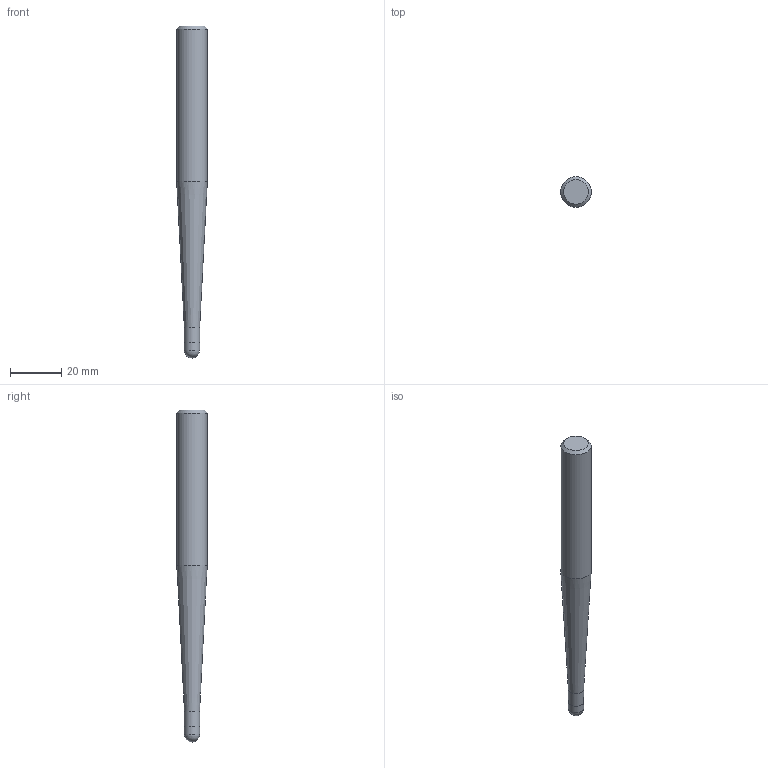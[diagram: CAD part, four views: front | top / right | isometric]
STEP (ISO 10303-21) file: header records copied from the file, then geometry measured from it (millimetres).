
FILE_DESCRIPTION((''),'2;1');
FILE_NAME('C:\Users\nsx150\AppData\Local\Temp\Mastercam 2021\SNAKH10GOD\TEMP.step','2021-10-21T13:34:02',(''),(''),'STEP Write','Mastercam 2021 ... CNC Software, Inc.','');
FILE_SCHEMA(('AUTOMOTIVE_DESIGN'));
Length unit declared in the file: millimetre
Products named in the file (1): None
Bounding box: 12 x 12 x 130 mm (x, y, z)
Volume: 10927.4 mm3; surface area: 4276.7 mm2
Topology: 2 solids, 2 shells, 9 faces, 14 edges, 8 vertices
Faces by surface type: plane 3, cylinder 3, cone 2, sphere 1
Full cylindrical faces by diameter (mm): 5.98 x1, 6 x1, 12 x1
Entity records: 211 total; most frequent: DIRECTION 36, CARTESIAN_POINT 25, AXIS2_PLACEMENT_3D 18, ORIENTED_EDGE 14, EDGE_LOOP 14, STYLED_ITEM 12, ADVANCED_FACE 9, FACE_BOUND 8
